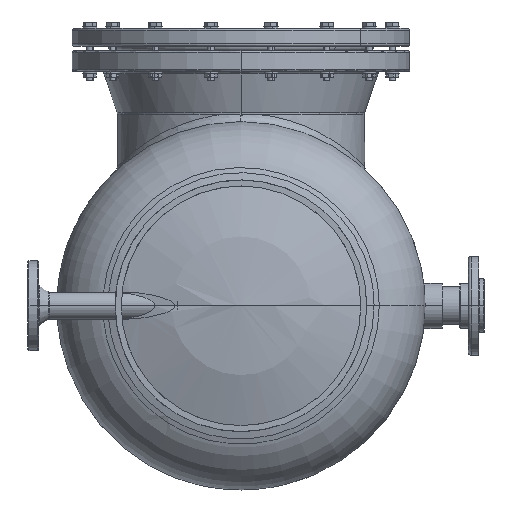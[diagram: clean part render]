
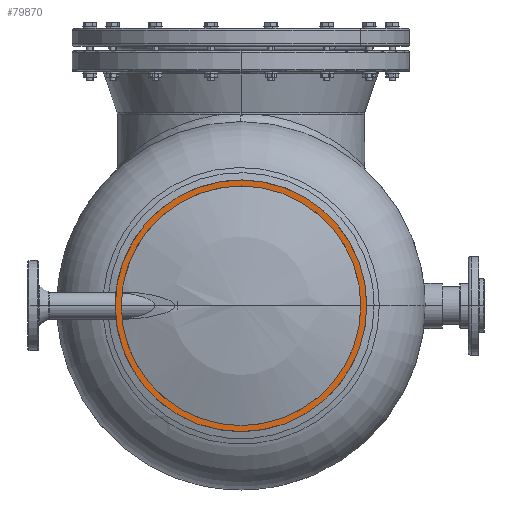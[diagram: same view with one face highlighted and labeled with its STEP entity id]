
A CAD part, front view. The second image highlights one B-rep face of the part: STEP entity #79870.
In plain terms, the highlighted planar face has unit normal (0, -1, 0).
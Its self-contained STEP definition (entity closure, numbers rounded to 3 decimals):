
#4463 = CARTESIAN_POINT ( 'NONE',  ( 210., 0., -210.03 ) ) ;
#4728 = CARTESIAN_POINT ( 'NONE',  ( 210., 0., -210.03 ) ) ;
#5328 = CARTESIAN_POINT ( 'NONE',  ( 10., 0., -210.03 ) ) ;
#5511 = DIRECTION ( 'NONE',  ( 1., 0., 0. ) ) ;
#6570 = DIRECTION ( 'NONE',  ( 0., -1., 0. ) ) ;
#6588 = EDGE_LOOP ( 'NONE', ( #66226, #92074 ) ) ;
#8884 = EDGE_CURVE ( 'NONE', #68095, #42790, #28329, .T. ) ;
#13028 = CARTESIAN_POINT ( 'NONE',  ( 210., 0., -210.03 ) ) ;
#13611 = CARTESIAN_POINT ( 'NONE',  ( 210., 0., -210.03 ) ) ;
#15174 = CARTESIAN_POINT ( 'NONE',  ( 210., 0., -210.03 ) ) ;
#16030 = EDGE_CURVE ( 'NONE', #26758, #71976, #80906, .T. ) ;
#22578 = ORIENTED_EDGE ( 'NONE', *, *, #8884, .F. ) ;
#26758 = VERTEX_POINT ( 'NONE', #74546 ) ;
#26799 = AXIS2_PLACEMENT_3D ( 'NONE', #15174, #79593, #43774 ) ;
#26807 = DIRECTION ( 'NONE',  ( 0., 1., 0. ) ) ;
#27365 = EDGE_CURVE ( 'NONE', #68095, #42790, #73851, .T. ) ;
#28329 = CIRCLE ( 'NONE', #26799, 200. ) ;
#33321 = AXIS2_PLACEMENT_3D ( 'NONE', #4728, #26807, #54980 ) ;
#37596 = CARTESIAN_POINT ( 'NONE',  ( 410., 0., -210.03 ) ) ;
#42790 = VERTEX_POINT ( 'NONE', #5328 ) ;
#43175 = EDGE_LOOP ( 'NONE', ( #22578, #61105 ) ) ;
#43774 = DIRECTION ( 'NONE',  ( 1., 0., 0. ) ) ;
#47203 = FACE_OUTER_BOUND ( 'NONE', #6588, .T. ) ;
#47872 = AXIS2_PLACEMENT_3D ( 'NONE', #13028, #55301, #5511 ) ;
#48122 = DIRECTION ( 'NONE',  ( 0., 1., 0. ) ) ;
#50659 = AXIS2_PLACEMENT_3D ( 'NONE', #13611, #6570, #62904 ) ;
#54643 = AXIS2_PLACEMENT_3D ( 'NONE', #4463, #48122, #61703 ) ;
#54980 = DIRECTION ( 'NONE',  ( 1., 0., 0. ) ) ;
#55301 = DIRECTION ( 'NONE',  ( 0., 1., 0. ) ) ;
#58060 = CIRCLE ( 'NONE', #50659, 210. ) ;
#61105 = ORIENTED_EDGE ( 'NONE', *, *, #27365, .T. ) ;
#61703 = DIRECTION ( 'NONE',  ( 1., 0., 0. ) ) ;
#62904 = DIRECTION ( 'NONE',  ( 1., 0., 0. ) ) ;
#65430 = CARTESIAN_POINT ( 'NONE',  ( 0., 0., -210.03 ) ) ;
#66226 = ORIENTED_EDGE ( 'NONE', *, *, #16030, .F. ) ;
#68095 = VERTEX_POINT ( 'NONE', #37596 ) ;
#68781 = PLANE ( 'NONE',  #54643 ) ;
#71976 = VERTEX_POINT ( 'NONE', #65430 ) ;
#73851 = CIRCLE ( 'NONE', #33321, 200. ) ;
#74546 = CARTESIAN_POINT ( 'NONE',  ( 420., 0., -210.03 ) ) ;
#75627 = EDGE_CURVE ( 'NONE', #26758, #71976, #58060, .T. ) ;
#79593 = DIRECTION ( 'NONE',  ( 0., -1., 0. ) ) ;
#79870 = ADVANCED_FACE ( 'NONE', ( #47203, #83431 ), #68781, .F. ) ;
#80906 = CIRCLE ( 'NONE', #47872, 210. ) ;
#83431 = FACE_BOUND ( 'NONE', #43175, .T. ) ;
#92074 = ORIENTED_EDGE ( 'NONE', *, *, #75627, .T. ) ;
